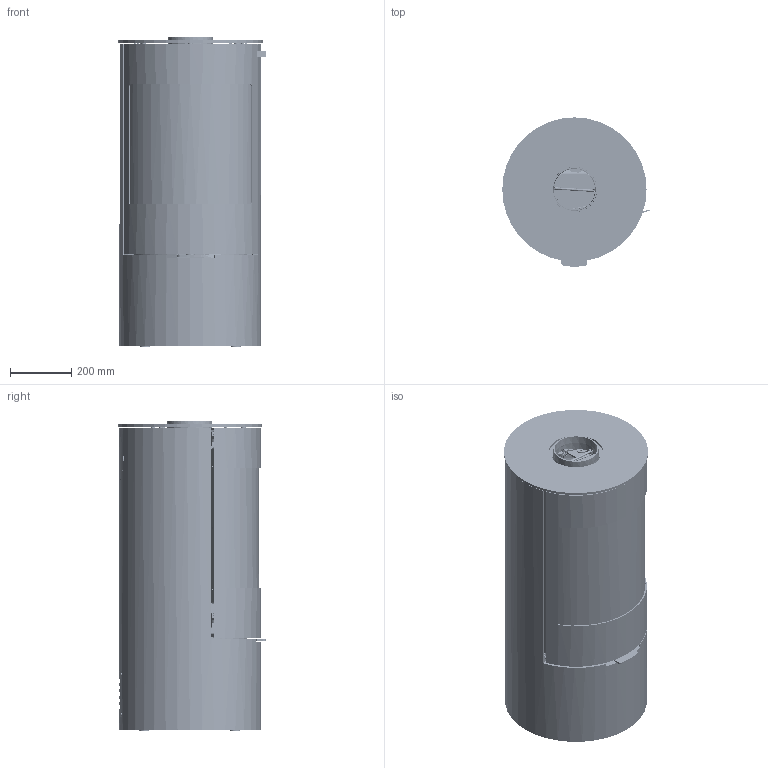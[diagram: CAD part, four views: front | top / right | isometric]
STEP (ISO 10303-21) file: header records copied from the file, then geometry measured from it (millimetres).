
FILE_DESCRIPTION(/* description */ (''),/* implementation_level */ '2;1');
FILE_NAME(/* name */ 'C:\WF\Designs\PROJEKTER\Salgsmateriale\3D-Filer\Viva 100 L Classic - 27590.stp',/* time_stamp */ '2016-12-07T07:59:03+01:00',/* author */ ('ksj'),/* organization */ (''),/* preprocessor_version */ 'ST-DEVELOPER v16.1',/* originating_system */ 'Autodesk Inventor 2016',/* authorisation */ '');
FILE_SCHEMA (('AUTOMOTIVE_DESIGN { 1 0 10303 214 3 1 1 }'));
Products named in the file (1): Viva 100 L Classic - 27590
Bounding box: 480.4 x 484.74 x 1011 mm (x, y, z)
Volume: 21917400.9 mm3; surface area: 8309444.7 mm2
Topology: 9 solids, 74 shells, 9070 faces, 25261 edges, 16083 vertices
Faces by surface type: plane 5199, cylinder 2753, bspline 533, cone 315, torus 232, sphere 38
Full cylindrical faces by diameter (mm): 1.2 x6, 1.5 x6, 1.75 x3, 2 x4, 2.34 x2, 2.89 x2, 3 x1, 3.2 x1, 3.5 x3, 4 x2, 4.2 x26, 4.3 x4, 4.95 x5, 5 x136, 5.1 x13, 5.2 x7, 5.3 x9, 5.5 x9, 5.9 x4, 5.99 x2, 6 x63, 6.1 x2, 6.2 x8, 6.4 x7, 6.5 x1, 6.75 x1, 7 x4, 7.1 x4, 7.5 x3, 7.7 x1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
Entity records: 351144 total; most frequent: CARTESIAN_POINT 115209, ORIENTED_EDGE 48290, DIRECTION 46084, EDGE_CURVE 24096, VERTEX_POINT 15791, AXIS2_PLACEMENT_3D 15447, LINE 15190, VECTOR 15190
